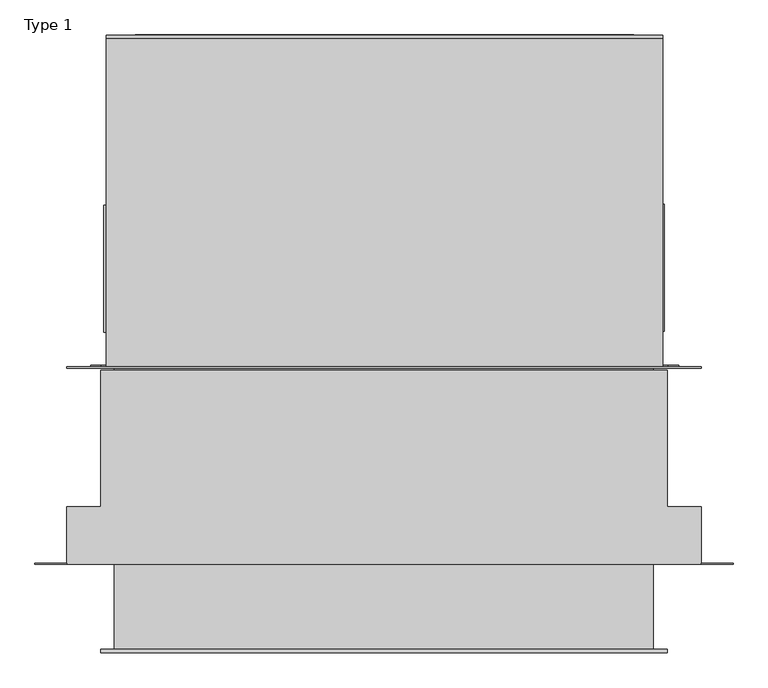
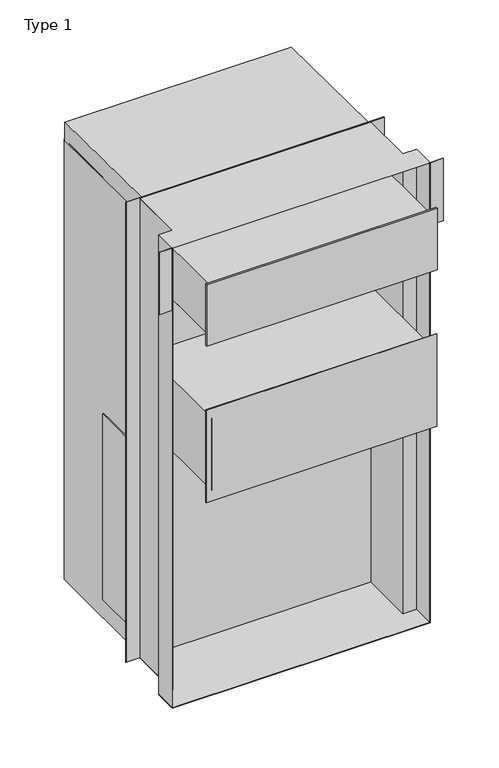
"""IFC4 building model written with IfcOpenShell, lengths in millimetres: proxy geometry, Uniflair_WMF0661_with_wallmountframe_BIM_Model : Type 1."""

from ifc_helpers import new_model, si_unit, point, frame, frame_2d, origin, place, context, project, spatial, polyline, circle_curve, trimmed, segment, composite_curve, outline, extrude, source, transform, mapped, element, save


def type_1_5fd10da7(model_context):
    return source(origin(), model_context, "Body", "SweptSolid", [
        extrude(outline(polyline([(523.8018802, 483.0425908), (523.8018802, 723.0425908), (529.0, 723.0425908), (529.0, 483.0425908), (523.8018802, 483.0425908)])), frame((0.0, 0.0, 862.8466177), z_axis=(0.0, 0.0, 1.0), x_axis=(1.0, 0.0, 0.0)), (0.0, 0.0, 1.0), 911.3275465),
        extrude(outline(composite_curve([segment(trimmed(circle_curve(frame_2d((2763.0043914, 449.5834139)), 20.0), [point((2763.0043914, 469.5834139))], [point((2763.0043914, 429.5834139))], False, "CARTESIAN"), True, "CONTINUOUS"), segment(trimmed(circle_curve(frame_2d((2763.0043914, 449.5834139)), 20.0), [point((2763.0043914, 429.5834139))], [point((2763.0043914, 469.5834139))], False, "CARTESIAN"), True, "CONTINUOUS")], self_intersect=False)), frame((0.0, 412.8268395, 0.0), z_axis=(0.0, 1.0, 0.0), x_axis=(0.0, 0.0, 1.0)), (0.0, 0.0, 1.0), 3.0),
        extrude(outline(composite_curve([segment(trimmed(circle_curve(frame_2d((2763.0043914, -449.5834139)), 20.0), [point((2763.0043914, -469.5834139))], [point((2763.0043914, -429.5834139))], False, "CARTESIAN"), True, "CONTINUOUS"), segment(trimmed(circle_curve(frame_2d((2763.0043914, -449.5834139)), 20.0), [point((2763.0043914, -429.5834139))], [point((2763.0043914, -469.5834139))], False, "CARTESIAN"), True, "CONTINUOUS")], self_intersect=False)), frame((0.0, 412.8268395, 0.0), z_axis=(0.0, 1.0, 0.0), x_axis=(0.0, 0.0, 1.0)), (0.0, 0.0, 1.0), 3.0),
        extrude(outline(polyline([(2977.443345, -553.6016093), (827.1769097, -553.6016093), (795.3181071, -521.7428067), (795.3178142, 524.5388953), (827.1769097, 556.398405), (2977.4437593, 556.398405), (2997.5199213, 536.3223685), (2997.5199213, -533.5255729), (2977.443345, -553.6016093)])), frame((0.0, 415.8268395, 0.0), z_axis=(0.0, 1.0, 0.0), x_axis=(0.0, 0.0, 1.0)), (0.0, 0.0, 1.0), 3.0),
        extrude(outline(polyline([(-523.8018802, 721.0832834), (-523.8018802, 481.0832834), (-529.0, 481.0832834), (-529.0, 721.0832834), (-523.8018802, 721.0832834)])), frame((0.0, 0.0, 862.8466177), z_axis=(0.0, 0.0, 1.0), x_axis=(1.0, 0.0, 0.0)), (0.0, 0.0, 1.0), 911.3275465),
        extrude(outline(polyline([(-468.8041663, 1041.8268395), (471.1958337, 1041.8268395), (471.1958337, 1040.8268395), (-468.8041663, 1040.8268395), (-468.8041663, 1041.8268395)])), frame((0.0, 0.0, 1820.2781805), z_axis=(0.0, 0.0, 1.0), x_axis=(1.0, 0.0, 0.0)), (0.0, 0.0, 1.0), 380.0),
        extrude(outline(polyline([(-493.8018802, 1041.8268395), (201.1981198, 1041.8268395), (201.1981198, 1040.8268395), (-493.8018802, 1040.8268395), (-493.8018802, 1041.8268395)])), frame((0.0, 0.0, 858.3506603), z_axis=(0.0, 0.0, 1.0), x_axis=(1.0, 0.0, 0.0)), (0.0, 0.0, 1.0), 631.3275465),
        extrude(outline(polyline([(1034.8675321, 2921.6241394), (414.8675321, 2929.4235231), (414.8675321, 3019.0), (1034.8675321, 3011.170139), (1034.8675321, 2921.6241394)])), frame((-523.8018802, 0.0, 0.0), z_axis=(1.0, 0.0, 0.0), x_axis=(0.0, 1.0, 0.0)), (0.0, 0.0, 1.0), 1049.9976998),
        extrude(outline(polyline([(2928.3296054, -523.8018802), (767.7926473, -523.8018802), (767.7926473, -519.8031702), (769.0139798, -519.8031702), (769.0139798, 522.2010067), (768.1751637, 522.200797), (768.1751637, 526.1968269), (2928.3296054, 526.1958388), (2928.3296054, -523.8018802)])), frame((0.0, 415.8268395, 0.0), z_axis=(0.0, 1.0, 0.0), x_axis=(0.0, 0.0, 1.0)), (0.0, 0.0, 1.0), 625.0),
        extrude(outline(polyline([(2253.0, 508.09413), (2253.0, -508.5), (1901.0, -508.5), (1901.0, 508.09413), (2253.0, 508.09413)]), holes=[polyline([(1902.0, -507.5), (2252.0, -507.5), (2252.0, 507.09413), (1902.0, 507.09413), (1902.0, -507.5)])]), frame((0.0, -117.3124501, 0.0), z_axis=(0.0, 1.0, 0.0), x_axis=(0.0, 0.0, 1.0)), (0.0, 0.0, 1.0), 530.1392896),
        extrude(outline(polyline([(-598.0, 43.7443301), (-658.5, 43.7443301), (-658.5, 44.7505328), (-598.0, 44.7505328), (-598.0, 43.7443301)])), frame((0.0, 0.0, 2717.0), z_axis=(0.0, 0.0, 1.0), x_axis=(1.0, 0.0, 0.0)), (0.0, 0.0, 1.0), 305.0),
        extrude(outline(polyline([(658.5, 43.7443301), (598.0, 43.7443301), (598.0, 44.8880699), (658.5, 44.8880699), (658.5, 43.7443301)])), frame((0.0, 0.0, 2717.0), z_axis=(0.0, 0.0, 1.0), x_axis=(1.0, 0.0, 0.0)), (0.0, 0.0, 1.0), 305.0),
        extrude(outline(polyline([(534.09413, 408.8268395), (534.09413, 151.8268395), (598.0, 151.8268395), (598.0, 43.7443301), (-598.0, 43.7443301), (-598.0, 151.8268395), (-534.5, 151.8268395), (-534.5, 408.8268395), (534.09413, 408.8268395)])), frame((0.0, 0.0, 3020.5646059), z_axis=(0.0, 0.0, 1.0), x_axis=(1.0, 0.0, 0.0)), (0.0, 0.0, 1.0), 1.4353941),
        extrude(outline(polyline([(534.09413, 408.8268395), (534.09413, 151.8268395), (598.0, 151.8268395), (598.0, 43.7443301), (-598.0, 43.7443301), (-598.0, 151.8268395), (-534.5, 151.8268395), (-534.5, 408.8268395), (534.09413, 408.8268395)])), frame((0.0, 0.0, 766.0), z_axis=(0.0, 0.0, 1.0), x_axis=(1.0, 0.0, 0.0)), (0.0, 0.0, 1.0), 1.4302096),
        extrude(outline(polyline([(534.5, -119.3124501), (-534.5, -119.3124501), (-534.5, -117.3124501), (534.5, -117.3124501), (534.5, -119.3124501)])), frame((0.0, 0.0, 1849.7834305), z_axis=(0.0, 0.0, 1.0), x_axis=(1.0, 0.0, 0.0)), (0.0, 0.0, 1.0), 454.0),
        extrude(outline(polyline([(2897.0, 508.09413), (2897.0, -508.5), (2645.0, -508.5), (2645.0, 508.09413), (2897.0, 508.09413)]), holes=[polyline([(2896.0, 507.09413), (2646.0, 507.09413), (2646.0, -507.5), (2896.0, -507.5), (2896.0, 507.09413)])]), frame((0.0, -117.3124501, 0.0), z_axis=(0.0, 1.0, 0.0), x_axis=(0.0, 0.0, 1.0)), (0.0, 0.0, 1.0), 530.1392896),
        extrude(outline(polyline([(534.5, -123.3124501), (-534.5, -123.3124501), (-534.5, -117.3124501), (534.5, -117.3124501), (534.5, -123.3124501)])), frame((0.0, 0.0, 2620.0), z_axis=(0.0, 0.0, 1.0), x_axis=(1.0, 0.0, 0.0)), (0.0, 0.0, 1.0), 302.0),
        extrude(outline(polyline([(-534.5, 151.8268395), (-534.5, 408.8268395), (534.09413, 408.8268395), (534.09413, 151.8268395), (598.0, 151.8268395), (598.0, 43.7443301), (597.0, 43.7443301), (597.0, 150.8268395), (533.09413, 150.8268395), (533.09413, 407.8268395), (-533.5, 407.8268395), (-533.5, 150.8268395), (-597.0, 150.8268395), (-597.0, 43.7443301), (-598.0, 43.7443301), (-598.0, 151.8268395), (-534.5, 151.8268395)])), frame((0.0, 0.0, 767.4302096), z_axis=(0.0, 0.0, 1.0), x_axis=(1.0, 0.0, 0.0)), (0.0, 0.0, 1.0), 2253.1343963),
        extrude(outline(polyline([(598.0, 412.8268395), (-598.0, 412.8268395), (-598.0, 415.8268395), (598.0, 415.8268395), (598.0, 412.8268395)])), frame((0.0, 0.0, 766.0), z_axis=(0.0, 0.0, 1.0), x_axis=(1.0, 0.0, 0.0)), (0.0, 0.0, 1.0), 2256.0),
    ])


if __name__ == "__main__":
    model = new_model("IFC4")
    model_context = context("Model", 3, world=origin())
    ifc_project = project(units=[si_unit("LENGTHUNIT", "METRE", prefix="MILLI")], contexts=[model_context])
    site = spatial("IfcSite", under=ifc_project)
    building = spatial("IfcBuilding", under=site)
    placement = place(None, origin())
    type_1_shape = type_1_5fd10da7(model_context)
    element("IfcBuildingElementProxy", 1, Name="Uniflair_WMF0661_with_wallmountframe_BIM_Model : Type 1", ObjectType="Uniflair_WMF0661_with_wallmountframe_BIM_Model : Type 1", at=placement, inside=building, context=model_context, shape_type="MappedRepresentation", body=[
        mapped(type_1_shape, transform((0.0, 0.0, 0.0), x_axis=(1.0, 0.0, 0.0), y_axis=(0.0, 1.0, 0.0), z_axis=(0.0, 0.0, 1.0))),
    ])
    save(model, "model.ifc")
